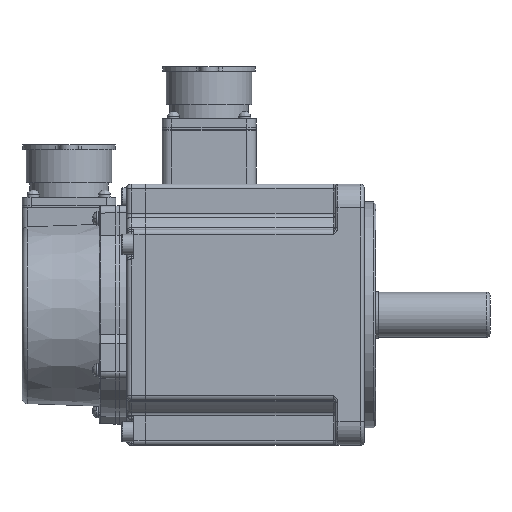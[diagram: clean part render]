
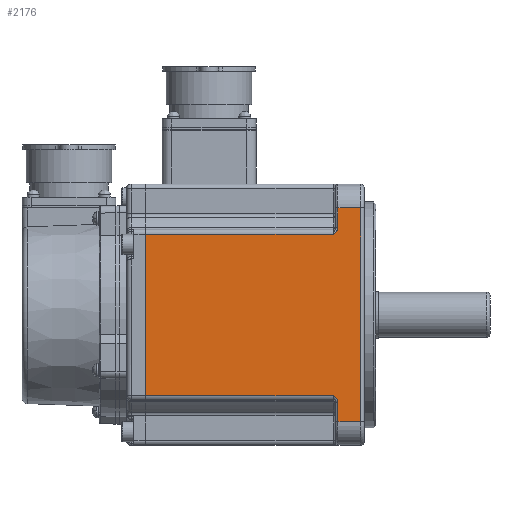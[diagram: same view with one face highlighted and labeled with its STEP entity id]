
A CAD part, left-side view. The second image highlights one B-rep face of the part: STEP entity #2176.
In plain terms, the highlighted planar face has unit normal (-1, 0, 0).
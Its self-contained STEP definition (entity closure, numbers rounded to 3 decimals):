
#924=PLANE('',#18311);
#2176=ADVANCED_FACE('',(#3533),#924,.T.);
#3533=FACE_OUTER_BOUND('',#4823,.T.);
#4823=EDGE_LOOP('',(#10138,#10139,#10140,#10141,#10142,#10143,#10144,#10145,
#10146,#10147));
#5454=B_SPLINE_CURVE_WITH_KNOTS('',3,(#29189,#29190,#29191,#29192,#29193,
#29194,#29195,#29196,#29197,#29198,#29199,#29200,#29201,#29202,#29203,#29204,
#29205,#29206,#29207),.UNSPECIFIED.,.F.,.F.,(4,3,3,3,3,3,4),(0.,0.002,
0.104,0.205,0.569,0.789,
1.),.UNSPECIFIED.);
#5455=B_SPLINE_CURVE_WITH_KNOTS('',3,(#29219,#29220,#29221,#29222,#29223,
#29224,#29225,#29226,#29227,#29228,#29229,#29230,#29231,#29232,#29233,#29234,
#29235,#29236,#29237),.UNSPECIFIED.,.F.,.F.,(4,3,3,3,3,3,4),(0.,0.211,
0.431,0.795,0.896,0.998,
1.),.UNSPECIFIED.);
#6175=LINE('',#28872,#7100);
#6235=LINE('',#29184,#7160);
#6236=LINE('',#29188,#7161);
#6237=LINE('',#29209,#7162);
#6238=LINE('',#29211,#7163);
#6239=LINE('',#29213,#7164);
#6240=LINE('',#29215,#7165);
#6241=LINE('',#29217,#7166);
#7100=VECTOR('',#22213,1.);
#7160=VECTOR('',#22391,1.);
#7161=VECTOR('',#22396,1.);
#7162=VECTOR('',#22397,1.);
#7163=VECTOR('',#22398,1.);
#7164=VECTOR('',#22399,1.);
#7165=VECTOR('',#22400,1.);
#7166=VECTOR('',#22401,1.);
#10138=ORIENTED_EDGE('',*,*,#14970,.T.);
#10139=ORIENTED_EDGE('',*,*,#14972,.F.);
#10140=ORIENTED_EDGE('',*,*,#14869,.T.);
#10141=ORIENTED_EDGE('',*,*,#14973,.T.);
#10142=ORIENTED_EDGE('',*,*,#14974,.T.);
#10143=ORIENTED_EDGE('',*,*,#14975,.T.);
#10144=ORIENTED_EDGE('',*,*,#14976,.T.);
#10145=ORIENTED_EDGE('',*,*,#14977,.T.);
#10146=ORIENTED_EDGE('',*,*,#14978,.T.);
#10147=ORIENTED_EDGE('',*,*,#14979,.T.);
#12971=VERTEX_POINT('',#28873);
#12972=VERTEX_POINT('',#28874);
#13049=VERTEX_POINT('',#29183);
#13050=VERTEX_POINT('',#29185);
#13051=VERTEX_POINT('',#29208);
#13052=VERTEX_POINT('',#29210);
#13053=VERTEX_POINT('',#29212);
#13054=VERTEX_POINT('',#29214);
#13055=VERTEX_POINT('',#29216);
#13056=VERTEX_POINT('',#29218);
#14869=EDGE_CURVE('',#12971,#12972,#6175,.T.);
#14970=EDGE_CURVE('',#13050,#13049,#6235,.T.);
#14972=EDGE_CURVE('',#12971,#13049,#6236,.T.);
#14973=EDGE_CURVE('',#12972,#13051,#5454,.T.);
#14974=EDGE_CURVE('',#13051,#13052,#6237,.T.);
#14975=EDGE_CURVE('',#13052,#13053,#6238,.T.);
#14976=EDGE_CURVE('',#13053,#13054,#6239,.T.);
#14977=EDGE_CURVE('',#13054,#13055,#6240,.T.);
#14978=EDGE_CURVE('',#13055,#13056,#6241,.T.);
#14979=EDGE_CURVE('',#13056,#13050,#5455,.T.);
#18311=AXIS2_PLACEMENT_3D('',#29238,#22402,#22403);
#22213=DIRECTION('',(0.,-1.,0.));
#22391=DIRECTION('',(0.,1.,0.));
#22396=DIRECTION('',(0.,0.,1.));
#22397=DIRECTION('',(0.,0.,-1.));
#22398=DIRECTION('',(0.,-1.,0.));
#22399=DIRECTION('',(0.,0.,1.));
#22400=DIRECTION('',(0.,1.,0.));
#22401=DIRECTION('',(0.,0.,-1.));
#22402=DIRECTION('',(-1.,0.,0.));
#22403=DIRECTION('',(0.,0.,-1.));
#28872=CARTESIAN_POINT('',(-149.876,-63.778,-125.192));
#28873=CARTESIAN_POINT('',(-149.876,13.922,-125.192));
#28874=CARTESIAN_POINT('',(-149.876,-65.078,-125.192));
#29183=CARTESIAN_POINT('',(-149.876,13.922,-57.192));
#29184=CARTESIAN_POINT('',(-149.876,-63.778,-57.192));
#29185=CARTESIAN_POINT('',(-149.876,-65.078,-57.192));
#29188=CARTESIAN_POINT('',(-149.876,13.922,-91.192));
#29189=CARTESIAN_POINT('',(-149.876,-65.078,-125.192));
#29190=CARTESIAN_POINT('',(-149.876,-65.08,-125.194));
#29191=CARTESIAN_POINT('',(-149.876,-65.083,-125.196));
#29192=CARTESIAN_POINT('',(-149.876,-65.085,-125.197));
#29193=CARTESIAN_POINT('',(-149.876,-65.185,-125.268));
#29194=CARTESIAN_POINT('',(-149.876,-65.285,-125.339));
#29195=CARTESIAN_POINT('',(-149.876,-65.384,-125.411));
#29196=CARTESIAN_POINT('',(-149.876,-65.483,-125.482));
#29197=CARTESIAN_POINT('',(-149.876,-65.581,-125.555));
#29198=CARTESIAN_POINT('',(-149.876,-65.677,-125.631));
#29199=CARTESIAN_POINT('',(-149.876,-66.02,-125.899));
#29200=CARTESIAN_POINT('',(-149.876,-66.346,-126.204));
#29201=CARTESIAN_POINT('',(-149.876,-66.594,-126.562));
#29202=CARTESIAN_POINT('',(-149.876,-66.745,-126.78));
#29203=CARTESIAN_POINT('',(-149.876,-66.87,-127.019));
#29204=CARTESIAN_POINT('',(-149.876,-66.954,-127.271));
#29205=CARTESIAN_POINT('',(-149.876,-67.034,-127.511));
#29206=CARTESIAN_POINT('',(-149.876,-67.078,-127.767));
#29207=CARTESIAN_POINT('',(-149.876,-67.078,-128.021));
#29208=CARTESIAN_POINT('',(-149.876,-67.078,-128.021));
#29209=CARTESIAN_POINT('',(-149.876,-67.078,-127.192));
#29210=CARTESIAN_POINT('',(-149.876,-67.078,-136.192));
#29211=CARTESIAN_POINT('',(-149.876,-78.078,-136.192));
#29212=CARTESIAN_POINT('',(-149.876,-76.578,-136.192));
#29213=CARTESIAN_POINT('',(-149.876,-76.578,-46.192));
#29214=CARTESIAN_POINT('',(-149.876,-76.578,-46.192));
#29215=CARTESIAN_POINT('',(-149.876,-78.078,-46.192));
#29216=CARTESIAN_POINT('',(-149.876,-67.078,-46.192));
#29217=CARTESIAN_POINT('',(-149.876,-67.078,-127.192));
#29218=CARTESIAN_POINT('',(-149.876,-67.078,-54.364));
#29219=CARTESIAN_POINT('',(-149.876,-67.078,-54.364));
#29220=CARTESIAN_POINT('',(-149.876,-67.078,-54.617));
#29221=CARTESIAN_POINT('',(-149.876,-67.034,-54.873));
#29222=CARTESIAN_POINT('',(-149.876,-66.954,-55.114));
#29223=CARTESIAN_POINT('',(-149.876,-66.87,-55.365));
#29224=CARTESIAN_POINT('',(-149.876,-66.745,-55.605));
#29225=CARTESIAN_POINT('',(-149.876,-66.594,-55.822));
#29226=CARTESIAN_POINT('',(-149.876,-66.346,-56.18));
#29227=CARTESIAN_POINT('',(-149.876,-66.02,-56.485));
#29228=CARTESIAN_POINT('',(-149.876,-65.677,-56.754));
#29229=CARTESIAN_POINT('',(-149.876,-65.581,-56.829));
#29230=CARTESIAN_POINT('',(-149.876,-65.483,-56.902));
#29231=CARTESIAN_POINT('',(-149.876,-65.384,-56.974));
#29232=CARTESIAN_POINT('',(-149.876,-65.285,-57.046));
#29233=CARTESIAN_POINT('',(-149.876,-65.185,-57.116));
#29234=CARTESIAN_POINT('',(-149.876,-65.085,-57.187));
#29235=CARTESIAN_POINT('',(-149.876,-65.083,-57.189));
#29236=CARTESIAN_POINT('',(-149.876,-65.08,-57.19));
#29237=CARTESIAN_POINT('',(-149.876,-65.078,-57.192));
#29238=CARTESIAN_POINT('',(-149.876,-63.778,-127.192));
